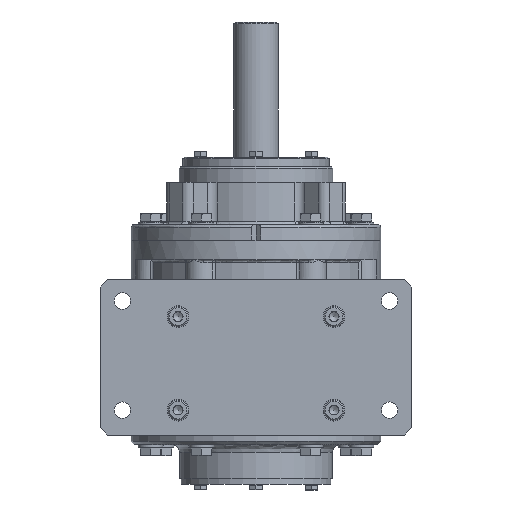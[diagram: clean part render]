
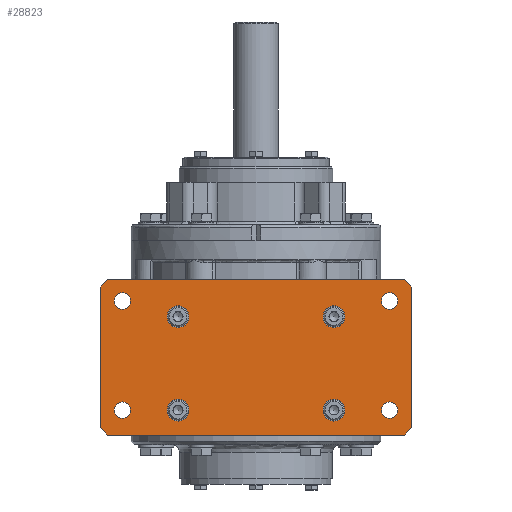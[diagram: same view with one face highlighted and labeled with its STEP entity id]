
A CAD part, front view. The second image highlights one B-rep face of the part: STEP entity #28823.
In plain terms, the highlighted planar face has unit normal (0, -1, 0).
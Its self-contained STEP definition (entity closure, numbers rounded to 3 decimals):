
#108 = LINE ( 'NONE', #32378, #17436 ) ;
#171 = LINE ( 'NONE', #32974, #16315 ) ;
#594 = CARTESIAN_POINT ( 'NONE',  ( -95., -94.3, 35.5 ) ) ;
#2020 = DIRECTION ( 'NONE',  ( 0., -1., 0. ) ) ;
#2277 = CARTESIAN_POINT ( 'NONE',  ( -100., -94.3, -59.5 ) ) ;
#2440 = FACE_BOUND ( 'NONE', #18558, .T. ) ;
#2734 = CIRCLE ( 'NONE', #3591, 5.25 ) ;
#2893 = LINE ( 'NONE', #39202, #36577 ) ;
#2909 = ORIENTED_EDGE ( 'NONE', *, *, #13469, .F. ) ;
#2924 = ORIENTED_EDGE ( 'NONE', *, *, #51015, .F. ) ;
#3591 = AXIS2_PLACEMENT_3D ( 'NONE', #24747, #37869, #4560 ) ;
#3730 = EDGE_LOOP ( 'NONE', ( #10864 ) ) ;
#4198 = VERTEX_POINT ( 'NONE', #20619 ) ;
#4320 = ORIENTED_EDGE ( 'NONE', *, *, #10632, .F. ) ;
#4560 = DIRECTION ( 'NONE',  ( -1., 0., 0. ) ) ;
#5319 = EDGE_LOOP ( 'NONE', ( #28322 ) ) ;
#5721 = AXIS2_PLACEMENT_3D ( 'NONE', #7135, #2020, #51456 ) ;
#6952 = DIRECTION ( 'NONE',  ( 1., 0., 0. ) ) ;
#7135 = CARTESIAN_POINT ( 'NONE',  ( -50., -94.3, -48.5 ) ) ;
#7179 = VERTEX_POINT ( 'NONE', #31363 ) ;
#7435 = CARTESIAN_POINT ( 'NONE',  ( -100., -94.3, 30.5 ) ) ;
#7453 = VERTEX_POINT ( 'NONE', #23587 ) ;
#7621 = DIRECTION ( 'NONE',  ( -0.707, 0., 0.707 ) ) ;
#8359 = AXIS2_PLACEMENT_3D ( 'NONE', #12150, #16465, #8660 ) ;
#8660 = DIRECTION ( 'NONE',  ( -1., 0., 0. ) ) ;
#9753 = VERTEX_POINT ( 'NONE', #28758 ) ;
#10305 = AXIS2_PLACEMENT_3D ( 'NONE', #26854, #46974, #11237 ) ;
#10483 = AXIS2_PLACEMENT_3D ( 'NONE', #39281, #46797, #18877 ) ;
#10530 = FACE_BOUND ( 'NONE', #51563, .T. ) ;
#10632 = EDGE_CURVE ( 'NONE', #15240, #7179, #171, .T. ) ;
#10864 = ORIENTED_EDGE ( 'NONE', *, *, #42331, .F. ) ;
#10971 = VERTEX_POINT ( 'NONE', #2277 ) ;
#10976 = DIRECTION ( 'NONE',  ( 0., -1., 0. ) ) ;
#11045 = CARTESIAN_POINT ( 'NONE',  ( 50., -94.3, -48.5 ) ) ;
#11064 = PLANE ( 'NONE',  #51236 ) ;
#11237 = DIRECTION ( 'NONE',  ( -1., 0., 0. ) ) ;
#11763 = CIRCLE ( 'NONE', #32365, 7. ) ;
#11831 = CARTESIAN_POINT ( 'NONE',  ( 100., -94.3, -59.5 ) ) ;
#12150 = CARTESIAN_POINT ( 'NONE',  ( 85.725, -94.3, -48.5 ) ) ;
#12555 = DIRECTION ( 'NONE',  ( 0.707, 0., -0.707 ) ) ;
#12744 = ORIENTED_EDGE ( 'NONE', *, *, #32324, .F. ) ;
#12834 = AXIS2_PLACEMENT_3D ( 'NONE', #47244, #10976, #27395 ) ;
#12890 = DIRECTION ( 'NONE',  ( -0.707, 0., -0.707 ) ) ;
#13047 = EDGE_CURVE ( 'NONE', #18768, #18768, #35986, .T. ) ;
#13469 = EDGE_CURVE ( 'NONE', #7453, #7453, #42908, .T. ) ;
#13853 = ORIENTED_EDGE ( 'NONE', *, *, #13047, .F. ) ;
#14076 = ORIENTED_EDGE ( 'NONE', *, *, #49751, .F. ) ;
#14496 = LINE ( 'NONE', #26593, #20870 ) ;
#14591 = FACE_BOUND ( 'NONE', #47069, .T. ) ;
#14947 = DIRECTION ( 'NONE',  ( 0., 0., 1. ) ) ;
#15215 = CIRCLE ( 'NONE', #8359, 5.25 ) ;
#15240 = VERTEX_POINT ( 'NONE', #52729 ) ;
#15662 = DIRECTION ( 'NONE',  ( 0., 0., 1. ) ) ;
#16315 = VECTOR ( 'NONE', #12555, 1000. ) ;
#16465 = DIRECTION ( 'NONE',  ( 0., -1., 0. ) ) ;
#16647 = EDGE_LOOP ( 'NONE', ( #2924 ) ) ;
#17436 = VECTOR ( 'NONE', #49813, 1000. ) ;
#17714 = AXIS2_PLACEMENT_3D ( 'NONE', #41440, #21043, #41981 ) ;
#17971 = EDGE_CURVE ( 'NONE', #23317, #23317, #2734, .T. ) ;
#18218 = CIRCLE ( 'NONE', #10483, 7. ) ;
#18558 = EDGE_LOOP ( 'NONE', ( #13853 ) ) ;
#18616 = FACE_BOUND ( 'NONE', #5319, .T. ) ;
#18702 = CARTESIAN_POINT ( 'NONE',  ( 50., -94.3, -55.5 ) ) ;
#18768 = VERTEX_POINT ( 'NONE', #27092 ) ;
#18877 = DIRECTION ( 'NONE',  ( 0., 0., -1. ) ) ;
#18963 = ORIENTED_EDGE ( 'NONE', *, *, #36020, .F. ) ;
#19016 = EDGE_CURVE ( 'NONE', #42981, #20802, #52063, .T. ) ;
#19083 = VERTEX_POINT ( 'NONE', #43287 ) ;
#20103 = CARTESIAN_POINT ( 'NONE',  ( -90.975, -94.3, -48.5 ) ) ;
#20329 = ORIENTED_EDGE ( 'NONE', *, *, #28452, .F. ) ;
#20619 = CARTESIAN_POINT ( 'NONE',  ( 80.475, -94.3, -48.5 ) ) ;
#20780 = EDGE_CURVE ( 'NONE', #19083, #10971, #36082, .T. ) ;
#20802 = VERTEX_POINT ( 'NONE', #594 ) ;
#20870 = VECTOR ( 'NONE', #6952, 1000. ) ;
#21043 = DIRECTION ( 'NONE',  ( 0., -1., 0. ) ) ;
#21692 = VERTEX_POINT ( 'NONE', #29459 ) ;
#21879 = FACE_BOUND ( 'NONE', #16647, .T. ) ;
#22808 = CARTESIAN_POINT ( 'NONE',  ( -100., -94.3, 30.5 ) ) ;
#23317 = VERTEX_POINT ( 'NONE', #44018 ) ;
#23587 = CARTESIAN_POINT ( 'NONE',  ( 80.475, -94.3, 21.5 ) ) ;
#23658 = VECTOR ( 'NONE', #14947, 1000. ) ;
#24747 = CARTESIAN_POINT ( 'NONE',  ( -85.725, -94.3, 21.5 ) ) ;
#24849 = EDGE_LOOP ( 'NONE', ( #20329 ) ) ;
#25189 = ORIENTED_EDGE ( 'NONE', *, *, #27061, .F. ) ;
#26593 = CARTESIAN_POINT ( 'NONE',  ( -100., -94.3, 35.5 ) ) ;
#26854 = CARTESIAN_POINT ( 'NONE',  ( 85.725, -94.3, 21.5 ) ) ;
#27061 = EDGE_CURVE ( 'NONE', #43630, #9753, #40302, .T. ) ;
#27092 = CARTESIAN_POINT ( 'NONE',  ( 50., -94.3, 4.5 ) ) ;
#27385 = EDGE_CURVE ( 'NONE', #10971, #42981, #42884, .T. ) ;
#27395 = DIRECTION ( 'NONE',  ( 0., 0., -1. ) ) ;
#27995 = DIRECTION ( 'NONE',  ( 0., -1., 0. ) ) ;
#28322 = ORIENTED_EDGE ( 'NONE', *, *, #17971, .F. ) ;
#28452 = EDGE_CURVE ( 'NONE', #4198, #4198, #15215, .T. ) ;
#28758 = CARTESIAN_POINT ( 'NONE',  ( 95., -94.3, -64.5 ) ) ;
#28823 = ADVANCED_FACE ( 'NONE', ( #18616, #34971, #14591, #30953, #21879, #10530, #39290, #2440, #32030 ), #11064, .F. ) ;
#28901 = CIRCLE ( 'NONE', #5721, 7. ) ;
#29459 = CARTESIAN_POINT ( 'NONE',  ( -50., -94.3, -55.5 ) ) ;
#30953 = FACE_BOUND ( 'NONE', #24849, .T. ) ;
#30996 = EDGE_CURVE ( 'NONE', #36977, #36977, #50295, .T. ) ;
#31363 = CARTESIAN_POINT ( 'NONE',  ( 100., -94.3, 30.5 ) ) ;
#32028 = ORIENTED_EDGE ( 'NONE', *, *, #30996, .F. ) ;
#32030 = FACE_OUTER_BOUND ( 'NONE', #34844, .T. ) ;
#32324 = EDGE_CURVE ( 'NONE', #7179, #43630, #108, .T. ) ;
#32365 = AXIS2_PLACEMENT_3D ( 'NONE', #11045, #27995, #51344 ) ;
#32378 = CARTESIAN_POINT ( 'NONE',  ( 100., -94.3, -64.5 ) ) ;
#32974 = CARTESIAN_POINT ( 'NONE',  ( 95., -94.3, 35.5 ) ) ;
#34844 = EDGE_LOOP ( 'NONE', ( #40089, #44214, #51996, #47964, #14076, #25189, #12744, #4320 ) ) ;
#34885 = DIRECTION ( 'NONE',  ( -1., 0., 0. ) ) ;
#34971 = FACE_BOUND ( 'NONE', #43592, .T. ) ;
#35399 = VECTOR ( 'NONE', #47741, 1000. ) ;
#35786 = CARTESIAN_POINT ( 'NONE',  ( -100., -94.3, -64.5 ) ) ;
#35986 = CIRCLE ( 'NONE', #12834, 7. ) ;
#36020 = EDGE_CURVE ( 'NONE', #21692, #21692, #28901, .T. ) ;
#36082 = LINE ( 'NONE', #44449, #44738 ) ;
#36577 = VECTOR ( 'NONE', #34885, 1000. ) ;
#36977 = VERTEX_POINT ( 'NONE', #20103 ) ;
#37869 = DIRECTION ( 'NONE',  ( 0., -1., 0. ) ) ;
#39055 = EDGE_CURVE ( 'NONE', #20802, #15240, #14496, .T. ) ;
#39202 = CARTESIAN_POINT ( 'NONE',  ( -100., -94.3, -64.5 ) ) ;
#39281 = CARTESIAN_POINT ( 'NONE',  ( -50., -94.3, 11.5 ) ) ;
#39290 = FACE_BOUND ( 'NONE', #3730, .T. ) ;
#40089 = ORIENTED_EDGE ( 'NONE', *, *, #39055, .F. ) ;
#40302 = LINE ( 'NONE', #11831, #44344 ) ;
#41440 = CARTESIAN_POINT ( 'NONE',  ( -85.725, -94.3, -48.5 ) ) ;
#41981 = DIRECTION ( 'NONE',  ( -1., 0., 0. ) ) ;
#42331 = EDGE_CURVE ( 'NONE', #42365, #42365, #18218, .T. ) ;
#42365 = VERTEX_POINT ( 'NONE', #50148 ) ;
#42884 = LINE ( 'NONE', #51198, #23658 ) ;
#42908 = CIRCLE ( 'NONE', #10305, 5.25 ) ;
#42981 = VERTEX_POINT ( 'NONE', #7435 ) ;
#43287 = CARTESIAN_POINT ( 'NONE',  ( -95., -94.3, -64.5 ) ) ;
#43408 = VERTEX_POINT ( 'NONE', #18702 ) ;
#43592 = EDGE_LOOP ( 'NONE', ( #2909 ) ) ;
#43630 = VERTEX_POINT ( 'NONE', #44080 ) ;
#44018 = CARTESIAN_POINT ( 'NONE',  ( -90.975, -94.3, 21.5 ) ) ;
#44080 = CARTESIAN_POINT ( 'NONE',  ( 100., -94.3, -59.5 ) ) ;
#44214 = ORIENTED_EDGE ( 'NONE', *, *, #19016, .F. ) ;
#44344 = VECTOR ( 'NONE', #12890, 1000. ) ;
#44449 = CARTESIAN_POINT ( 'NONE',  ( -95., -94.3, -64.5 ) ) ;
#44671 = DIRECTION ( 'NONE',  ( 0., 1., 0. ) ) ;
#44738 = VECTOR ( 'NONE', #7621, 1000. ) ;
#46797 = DIRECTION ( 'NONE',  ( 0., -1., 0. ) ) ;
#46974 = DIRECTION ( 'NONE',  ( 0., -1., 0. ) ) ;
#47069 = EDGE_LOOP ( 'NONE', ( #32028 ) ) ;
#47244 = CARTESIAN_POINT ( 'NONE',  ( 50., -94.3, 11.5 ) ) ;
#47741 = DIRECTION ( 'NONE',  ( 0.707, 0., 0.707 ) ) ;
#47964 = ORIENTED_EDGE ( 'NONE', *, *, #20780, .F. ) ;
#49751 = EDGE_CURVE ( 'NONE', #9753, #19083, #2893, .T. ) ;
#49813 = DIRECTION ( 'NONE',  ( 0., 0., -1. ) ) ;
#50148 = CARTESIAN_POINT ( 'NONE',  ( -50., -94.3, 4.5 ) ) ;
#50295 = CIRCLE ( 'NONE', #17714, 5.25 ) ;
#51015 = EDGE_CURVE ( 'NONE', #43408, #43408, #11763, .T. ) ;
#51198 = CARTESIAN_POINT ( 'NONE',  ( -100., -94.3, -64.5 ) ) ;
#51236 = AXIS2_PLACEMENT_3D ( 'NONE', #35786, #44671, #15662 ) ;
#51344 = DIRECTION ( 'NONE',  ( 0., 0., -1. ) ) ;
#51456 = DIRECTION ( 'NONE',  ( 0., 0., -1. ) ) ;
#51563 = EDGE_LOOP ( 'NONE', ( #18963 ) ) ;
#51996 = ORIENTED_EDGE ( 'NONE', *, *, #27385, .F. ) ;
#52063 = LINE ( 'NONE', #22808, #35399 ) ;
#52729 = CARTESIAN_POINT ( 'NONE',  ( 95., -94.3, 35.5 ) ) ;
